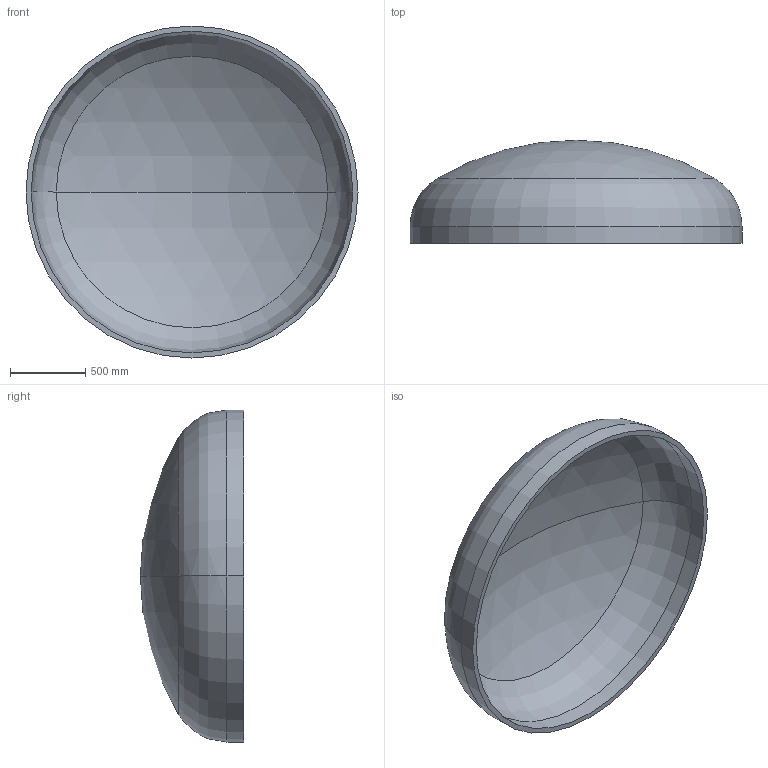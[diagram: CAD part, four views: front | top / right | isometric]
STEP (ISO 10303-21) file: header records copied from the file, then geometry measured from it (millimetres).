
FILE_DESCRIPTION (( 'STEP AP203' ), '1' );
FILE_NAME ('DIN 28013 Korbbogenform_-_Boden DIN 28013 - 2200 x 110 - I - s=34.step', '2016-07-01T14:31:55', ( '' ), ( '' ), 'SwSTEP 2.0', 'SolidWorks 2013', '' );
FILE_SCHEMA (( 'CONFIG_CONTROL_DESIGN' ));
Length unit declared in the file: millimetre
Products named in the file (1): DIN 28013 Korbbogenform_-_Boden DIN 28013 - 2200 x 110 - I - s=34
Bounding box: 2200 x 683.62 x 2200 mm (x, y, z)
Volume: 200959433 mm3; surface area: 12054919.7 mm2
Topology: 1 solids, 1 shells, 13 faces, 24 edges, 14 vertices
Faces by surface type: torus 4, cylinder 4, sphere 4, plane 1
Entity records: 407 total; most frequent: DIRECTION 72, CARTESIAN_POINT 52, ORIENTED_EDGE 48, AXIS2_PLACEMENT_3D 34, EDGE_CURVE 24, CIRCLE 20, VERTEX_POINT 14, EDGE_LOOP 14
